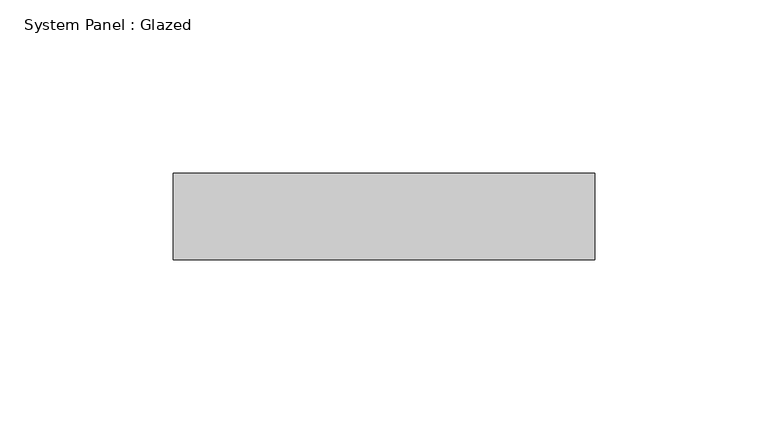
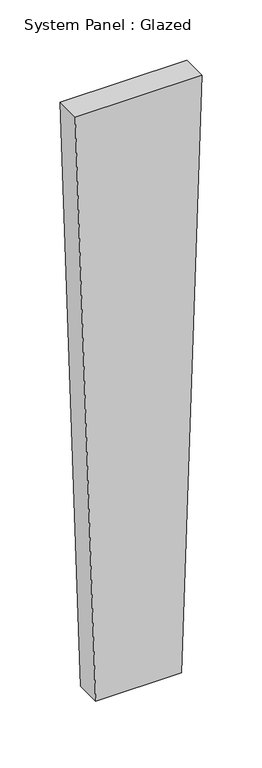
"""IFC4 building model written with IfcOpenShell, lengths in millimetres: plate geometry, System Panel : Glazed."""

from ifc_helpers import new_model, si_unit, frame, origin, place, context, project, spatial, polyline, outline, extrude, source, transform, mapped, element, save


def system_panel_glazed_b8320560(model_context):
    return source(origin(), model_context, "Body", "SweptSolid", [
        extrude(outline(polyline([(0.0, -41.2859165), (0.0, 41.2859165), (599.6771114, 60.9674319), (599.6771114, -60.9674319), (0.0, -41.2859165)])), frame((0.0, 24.5, 0.0), z_axis=(0.0, 1.0, 0.0), x_axis=(0.0, 0.0, 1.0)), (0.0, 0.0, 1.0), 25.0),
    ])


if __name__ == "__main__":
    model = new_model("IFC4")
    model_context = context("Model", 3, world=origin())
    ifc_project = project(units=[si_unit("LENGTHUNIT", "METRE", prefix="MILLI")], contexts=[model_context])
    site = spatial("IfcSite", under=ifc_project)
    building = spatial("IfcBuilding", under=site)
    placement = place(None, origin())
    system_panel_glazed_shape = system_panel_glazed_b8320560(model_context)
    element("IfcPlate", 1, ObjectType="System Panel : Glazed", at=placement, inside=building, context=model_context, shape_type="MappedRepresentation", body=[
        mapped(system_panel_glazed_shape, transform((0.0, 0.0, 0.0), x_axis=(1.0, 0.0, 0.0), y_axis=(0.0, 1.0, 0.0), z_axis=(0.0, 0.0, 1.0))),
    ])
    save(model, "model.ifc")
